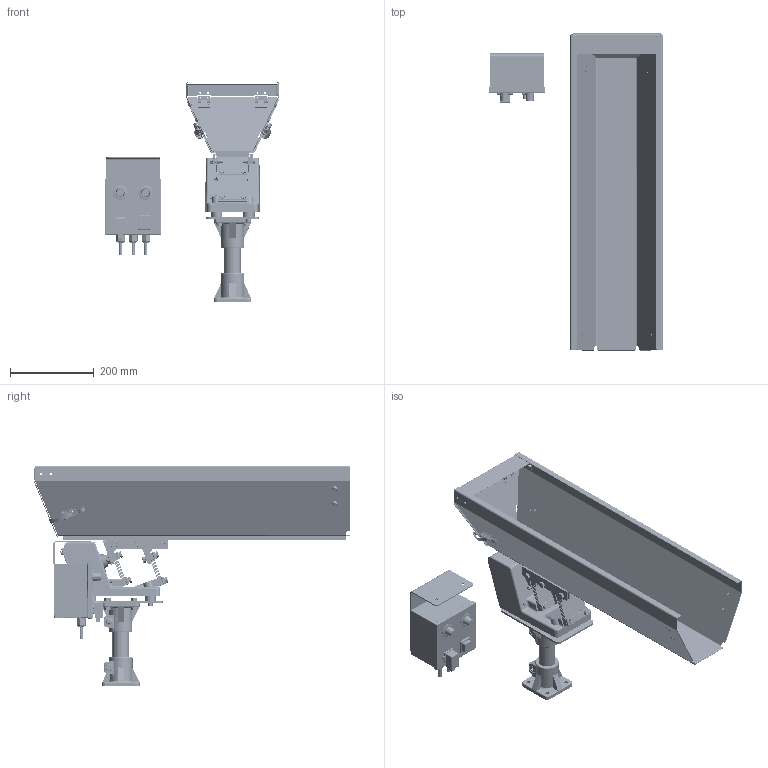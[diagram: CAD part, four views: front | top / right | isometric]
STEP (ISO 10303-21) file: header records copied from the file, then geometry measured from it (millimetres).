
FILE_DESCRIPTION (( 'STEP AP214' ), '1' );
FILE_NAME ('GM000339..step', '2026-10-16T12:23:12', ( '' ), ( '' ), 'SwSTEP 2.0', 'SolidWorks 2025', '' );
FILE_SCHEMA (( 'AUTOMOTIVE_DESIGN' ));
Length unit declared in the file: millimetre
Products named in the file (34): CM000432; GM000339.; PD001014; CM000079; CM000306; PD009559_001; CM000934; CM000064; CM000922; PD001016; CM000029; CE000026; CM000305_002; CM000305_001; PD001174; CM000305; PD001013; PD009559_002; CM000979; SM000080; CM000055; CM000306_003; CM000031; CM000921; CM000306_001; CM000305_003; CM000306_002; CM000925; PD009559; CM000924; PD001172; PD000067; CM000561
Assembly tree (67 placements, depth 3):
  GM000339.
    CM000079  x4
    CM000029  x8
    CM000561  x10
    CM000064  x4
    CM000031  x4
    CM000979  x6
    PD009559
      PD009559_001
      PD009559_002
    PD001172
    CM000305
      CM000305_001
      CM000305_003
      CM000305_002
    CM000305
      CM000305_001
      CM000305_003
      CM000305_002
    PD001174
    CM000306  x2
      CM000306_001
      CM000306_002
      CM000306_003
    PD001016
    CM000432  x2
    PD001014
    CM000055
    PD001013
    PD000067
    CE000026
    SM000080
    CM000934  x4
  CM000922
  CM000921
  CM000925
  CM000924
Bounding box: 415.32 x 758 x 527.84 mm (x, y, z)
Volume: 3630275.9 mm3; surface area: 1666494.4 mm2
Topology: 64 solids, 65 shells, 8782 faces, 24142 edges, 15608 vertices
Faces by surface type: cylinder 6343, plane 1548, cone 516, torus 165, sphere 158, bspline 52
Entity records: 147692 total; most frequent: CARTESIAN_POINT 63560, ORIENTED_EDGE 19592, DIRECTION 12518, EDGE_CURVE 9798, VERTEX_POINT 6177, B_SPLINE_CURVE_WITH_KNOTS 5981, AXIS2_PLACEMENT_3D 5003, EDGE_LOOP 4175
